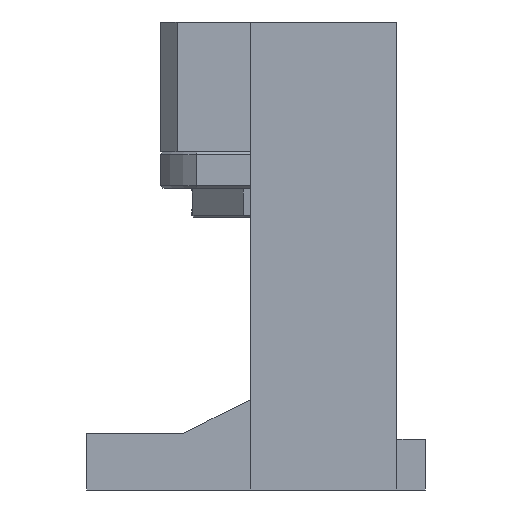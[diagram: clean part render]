
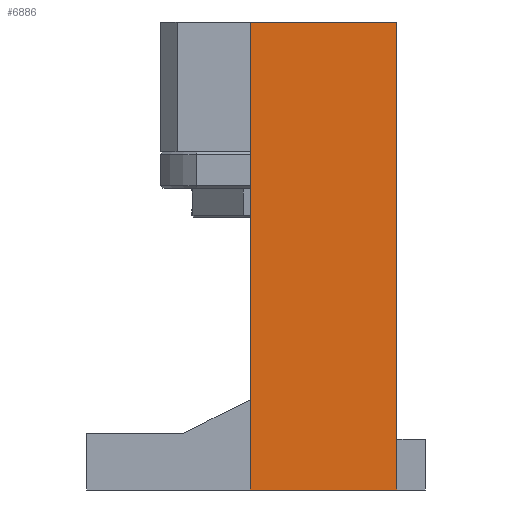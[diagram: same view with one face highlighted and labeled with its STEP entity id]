
A CAD part, left-side view. The second image highlights one B-rep face of the part: STEP entity #6886.
In plain terms, the highlighted planar face has unit normal (-1, 0, 0).
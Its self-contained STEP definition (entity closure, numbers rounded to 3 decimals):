
#67 = CARTESIAN_POINT ( 'NONE',  ( -32.5, 1., 5. ) ) ;
#212 = VERTEX_POINT ( 'NONE', #3513 ) ;
#971 = VERTEX_POINT ( 'NONE', #8104 ) ;
#1182 = LINE ( 'NONE', #4810, #5142 ) ;
#1259 = ORIENTED_EDGE ( 'NONE', *, *, #3528, .T. ) ;
#1284 = ORIENTED_EDGE ( 'NONE', *, *, #2449, .F. ) ;
#1367 = CARTESIAN_POINT ( 'NONE',  ( -32.5, -25., -18. ) ) ;
#1388 = ORIENTED_EDGE ( 'NONE', *, *, #7875, .T. ) ;
#1510 = ORIENTED_EDGE ( 'NONE', *, *, #4992, .F. ) ;
#1515 = DIRECTION ( 'NONE',  ( 0., 0., -1. ) ) ;
#2129 = CARTESIAN_POINT ( 'NONE',  ( -32.5, 1., -18. ) ) ;
#2139 = DIRECTION ( 'NONE',  ( 0., 0., 1. ) ) ;
#2154 = CARTESIAN_POINT ( 'NONE',  ( -32.5, -25., 5. ) ) ;
#2449 = EDGE_CURVE ( 'NONE', #212, #3158, #6778, .T. ) ;
#2983 = EDGE_LOOP ( 'NONE', ( #1259, #1284, #1388, #1510 ) ) ;
#3158 = VERTEX_POINT ( 'NONE', #67 ) ;
#3513 = CARTESIAN_POINT ( 'NONE',  ( -32.5, 1., -78. ) ) ;
#3528 = EDGE_CURVE ( 'NONE', #7257, #3158, #1182, .T. ) ;
#3835 = VECTOR ( 'NONE', #8809, 1000. ) ;
#4278 = LINE ( 'NONE', #8837, #3835 ) ;
#4799 = DIRECTION ( 'NONE',  ( 0., 1., 0. ) ) ;
#4810 = CARTESIAN_POINT ( 'NONE',  ( -32.5, 1., 5. ) ) ;
#4992 = EDGE_CURVE ( 'NONE', #7257, #971, #5671, .T. ) ;
#5142 = VECTOR ( 'NONE', #4799, 1000. ) ;
#5671 = LINE ( 'NONE', #1367, #6868 ) ;
#6342 = AXIS2_PLACEMENT_3D ( 'NONE', #8489, #8273, #8246 ) ;
#6778 = LINE ( 'NONE', #2129, #8507 ) ;
#6858 = FACE_OUTER_BOUND ( 'NONE', #2983, .T. ) ;
#6868 = VECTOR ( 'NONE', #1515, 1000. ) ;
#6886 = ADVANCED_FACE ( 'NONE', ( #6858 ), #8612, .T. ) ;
#7257 = VERTEX_POINT ( 'NONE', #2154 ) ;
#7875 = EDGE_CURVE ( 'NONE', #212, #971, #4278, .T. ) ;
#8104 = CARTESIAN_POINT ( 'NONE',  ( -32.5, -25., -78. ) ) ;
#8246 = DIRECTION ( 'NONE',  ( 0., -1., 0. ) ) ;
#8273 = DIRECTION ( 'NONE',  ( -1., 0., 0. ) ) ;
#8489 = CARTESIAN_POINT ( 'NONE',  ( -32.5, 0., -78. ) ) ;
#8507 = VECTOR ( 'NONE', #2139, 1000. ) ;
#8612 = PLANE ( 'NONE',  #6342 ) ;
#8809 = DIRECTION ( 'NONE',  ( 0., -1., 0. ) ) ;
#8837 = CARTESIAN_POINT ( 'NONE',  ( -32.5, 0., -78. ) ) ;
